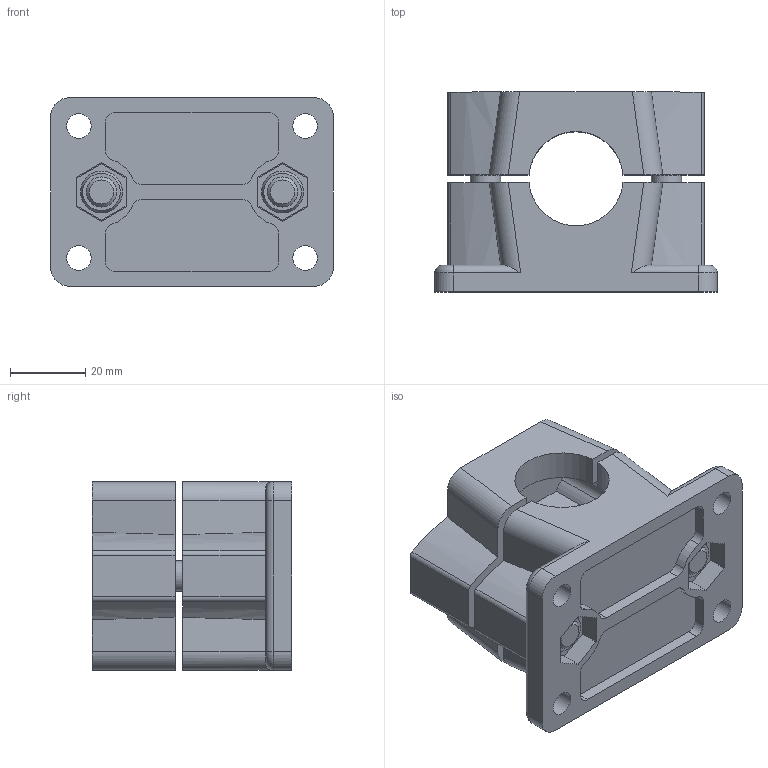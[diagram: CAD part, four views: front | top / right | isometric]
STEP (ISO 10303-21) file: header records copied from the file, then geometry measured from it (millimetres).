
FILE_DESCRIPTION( ( 'STEP AP203' ), '1' );
FILE_NAME( 'C:/Temp/Ganter_Step_05_03_2020/data/3_7/147/Flanged connector clamp GN 147-B25-2-BL.stp', '2020-03-12T14:20:25', ( 'License CC BY-ND 4.0' ), ( 'CADENAS' ), ' ', 'PARTsolutions', ' ' );
FILE_SCHEMA( ( 'CONFIG_CONTROL_DESIGN' ) );
Length unit declared in the file: millimetre
Products named in the file (1): _Flanged connector clamp GN 147-B25-2-BL
Bounding box: 75 x 53 x 50 mm (x, y, z)
Volume: 82902.4 mm3; surface area: 35461.8 mm2
Topology: 1 solids, 1 shells, 220 faces, 586 edges, 390 vertices
Faces by surface type: plane 119, cylinder 91, torus 6, cone 4
Full cylindrical faces by diameter (mm): 6.5 x4, 8 x4, 8.5 x4, 13 x2
Entity records: 6818 total; most frequent: CARTESIAN_POINT 1217, DIRECTION 1192, ORIENTED_EDGE 1112, EDGE_CURVE 556, AXIS2_PLACEMENT_3D 419, VERTEX_POINT 380, LINE 354, VECTOR 354
